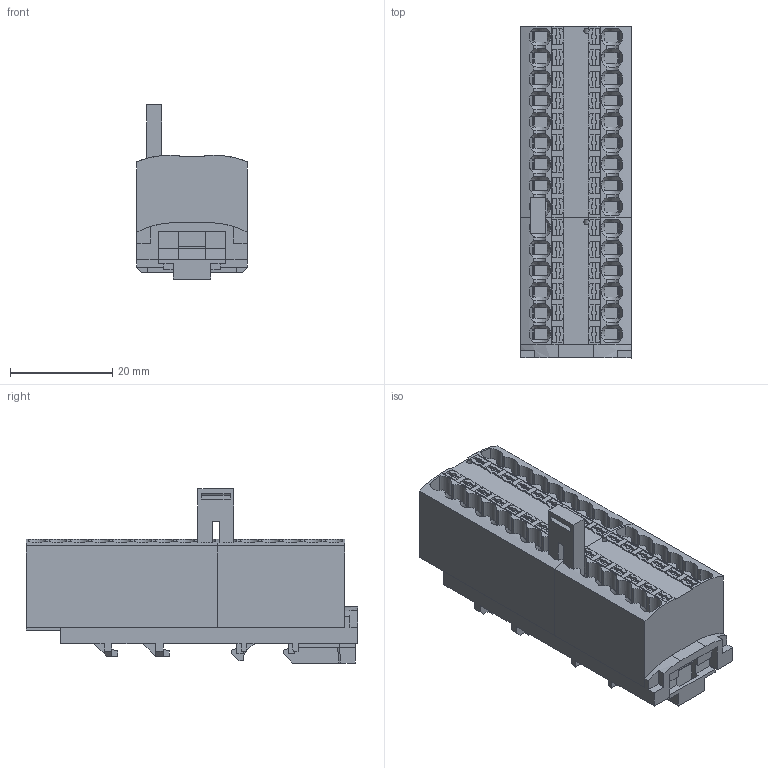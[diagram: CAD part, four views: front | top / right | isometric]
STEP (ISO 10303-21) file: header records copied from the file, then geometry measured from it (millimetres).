
FILE_DESCRIPTION(/* description */ ('Unknown'),/* implementation_level */ '2;1');
FILE_NAME(/* name */ 'PTFIX1,5-28 BK 1272425',/* time_stamp */ '2021-05-27T18:26:07+09:00',/* author */ ('Unknown'),/* organization */ ('Unknown'),/* preprocessor_version */ 'ST-DEVELOPER v16.7',/* originating_system */ 'Solid Edge',/* authorisation */ 'Unknown');
FILE_SCHEMA (('AUTOMOTIVE_DESIGN {1 0 10303 214 3 1 1}'));
Products named in the file (5): PTFIX1,5-28 BK 1272425; pxc_1049497_00_PTFIX-1-5-NS35_3D (3); pxc_3002782_03_PTFIX-12X1-5-BK_3D; pxc_3002783_03_PTFIX-18X1-5-BK_3D; pxc_3030116_06_FBS-2-4_3D (1)
Assembly tree (4 placements, depth 2):
  PTFIX1,5-28 BK 1272425
    pxc_1049497_00_PTFIX-1-5-NS35_3D (3)
    pxc_3002782_03_PTFIX-12X1-5-BK_3D
    pxc_3002783_03_PTFIX-18X1-5-BK_3D
    pxc_3030116_06_FBS-2-4_3D (1)
Bounding box: 21.6 x 64.8 x 34 mm (x, y, z)
Volume: 24754 mm3; surface area: 15926.6 mm2
Topology: 4 solids, 4 shells, 1282 faces, 3860 edges, 2592 vertices
Faces by surface type: plane 1093, cone 90, cylinder 73, bspline 26
Entity records: 83988 total; most frequent: CARTESIAN_POINT 40811, ORIENTED_EDGE 7720, DIRECTION 6296, EDGE_CURVE 3860, LINE 2966, VECTOR 2966, VERTEX_POINT 2592, AXIS2_PLACEMENT_3D 1665
